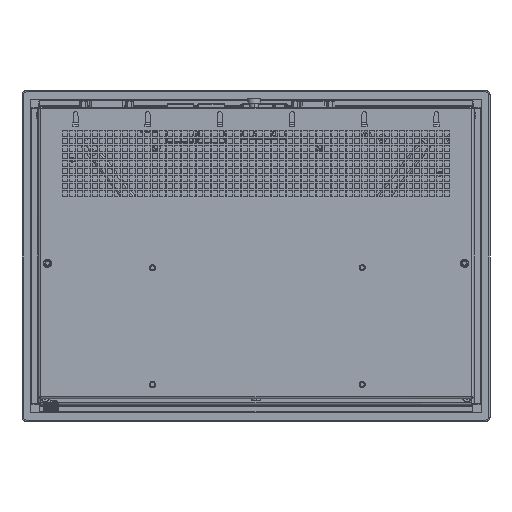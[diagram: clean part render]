
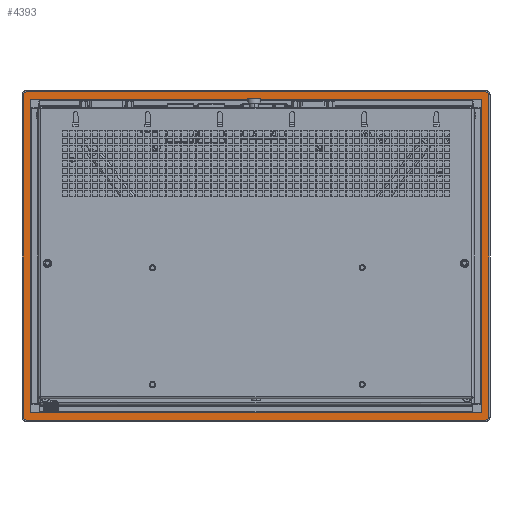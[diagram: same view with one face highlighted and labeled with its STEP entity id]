
A CAD part, front view. The second image highlights one B-rep face of the part: STEP entity #4393.
In plain terms, the highlighted planar face has unit normal (0, -1, 0).
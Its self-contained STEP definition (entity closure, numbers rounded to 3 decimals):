
#4140=CARTESIAN_POINT('',(-6.398,-0.059,
-4.291));
#4141=DIRECTION('',(0.,1.,0.));
#4142=DIRECTION('',(0.,0.,-1.));
#4143=AXIS2_PLACEMENT_3D('',#4140,#4141,#4142);
#4145=DIRECTION('',(0.,0.,1.));
#4146=VECTOR('',#4145,8.976);
#4147=CARTESIAN_POINT('',(-6.476,-0.059,
-4.291));
#4148=LINE('',#4147,#4146);
#4149=CARTESIAN_POINT('',(-6.398,-0.059,
4.685));
#4150=DIRECTION('',(0.,1.,0.));
#4151=DIRECTION('',(-1.,0.,0.));
#4152=AXIS2_PLACEMENT_3D('',#4149,#4150,#4151);
#4154=DIRECTION('',(1.,0.,0.));
#4155=VECTOR('',#4154,12.795);
#4156=CARTESIAN_POINT('',(-6.398,-0.059,
4.764));
#4157=LINE('',#4156,#4155);
#4158=CARTESIAN_POINT('',(6.398,-0.059,
4.685));
#4159=DIRECTION('',(0.,1.,0.));
#4160=DIRECTION('',(0.,0.,1.));
#4161=AXIS2_PLACEMENT_3D('',#4158,#4159,#4160);
#4163=DIRECTION('',(0.,0.,-1.));
#4164=VECTOR('',#4163,8.976);
#4165=CARTESIAN_POINT('',(6.476,-0.059,
4.685));
#4166=LINE('',#4165,#4164);
#4167=CARTESIAN_POINT('',(6.398,-0.059,
-4.291));
#4168=DIRECTION('',(0.,1.,0.));
#4169=DIRECTION('',(1.,0.,0.));
#4170=AXIS2_PLACEMENT_3D('',#4167,#4168,#4169);
#4172=DIRECTION('',(-1.,0.,0.));
#4173=VECTOR('',#4172,12.795);
#4174=CARTESIAN_POINT('',(6.398,-0.059,
-4.37));
#4175=LINE('',#4174,#4173);
#4176=DIRECTION('',(1.,0.,0.));
#4177=VECTOR('',#4176,12.48);
#4178=CARTESIAN_POINT('',(-6.24,-0.059,
-4.173));
#4179=LINE('',#4178,#4177);
#4180=CARTESIAN_POINT('',(6.24,-0.059,
-4.134));
#4181=DIRECTION('',(0.,-1.,0.));
#4182=DIRECTION('',(0.,0.,-1.));
#4183=AXIS2_PLACEMENT_3D('',#4180,#4181,#4182);
#4185=DIRECTION('',(0.,0.,1.));
#4186=VECTOR('',#4185,8.661);
#4187=CARTESIAN_POINT('',(6.28,-0.059,
-4.134));
#4188=LINE('',#4187,#4186);
#4189=CARTESIAN_POINT('',(6.24,-0.059,
4.528));
#4190=DIRECTION('',(0.,-1.,0.));
#4191=DIRECTION('',(1.,0.,0.));
#4192=AXIS2_PLACEMENT_3D('',#4189,#4190,#4191);
#4194=DIRECTION('',(-1.,0.,0.));
#4195=VECTOR('',#4194,12.48);
#4196=CARTESIAN_POINT('',(6.24,-0.059,
4.567));
#4197=LINE('',#4196,#4195);
#4198=CARTESIAN_POINT('',(-6.24,-0.059,
4.528));
#4199=DIRECTION('',(0.,-1.,0.));
#4200=DIRECTION('',(0.,0.,1.));
#4201=AXIS2_PLACEMENT_3D('',#4198,#4199,#4200);
#4203=DIRECTION('',(0.,0.,-1.));
#4204=VECTOR('',#4203,8.661);
#4205=CARTESIAN_POINT('',(-6.28,-0.059,
4.528));
#4206=LINE('',#4205,#4204);
#4207=CARTESIAN_POINT('',(-6.24,-0.059,
-4.134));
#4208=DIRECTION('',(0.,-1.,0.));
#4209=DIRECTION('',(-1.,0.,0.));
#4210=AXIS2_PLACEMENT_3D('',#4207,#4208,#4209);
#4296=CARTESIAN_POINT('',(-6.398,-0.059,
-4.37));
#4297=CARTESIAN_POINT('',(-6.476,-0.059,
-4.291));
#4298=VERTEX_POINT('',#4296);
#4299=VERTEX_POINT('',#4297);
#4300=CARTESIAN_POINT('',(-6.476,-0.059,
4.685));
#4301=VERTEX_POINT('',#4300);
#4302=CARTESIAN_POINT('',(-6.398,-0.059,
4.764));
#4303=VERTEX_POINT('',#4302);
#4304=CARTESIAN_POINT('',(6.398,-0.059,
4.764));
#4305=VERTEX_POINT('',#4304);
#4306=CARTESIAN_POINT('',(6.476,-0.059,
4.685));
#4307=VERTEX_POINT('',#4306);
#4308=CARTESIAN_POINT('',(6.476,-0.059,
-4.291));
#4309=VERTEX_POINT('',#4308);
#4310=CARTESIAN_POINT('',(6.398,-0.059,
-4.37));
#4311=VERTEX_POINT('',#4310);
#4312=CARTESIAN_POINT('',(-6.24,-0.059,
-4.173));
#4313=CARTESIAN_POINT('',(6.24,-0.059,
-4.173));
#4314=VERTEX_POINT('',#4312);
#4315=VERTEX_POINT('',#4313);
#4316=CARTESIAN_POINT('',(6.28,-0.059,
-4.134));
#4317=VERTEX_POINT('',#4316);
#4318=CARTESIAN_POINT('',(6.28,-0.059,
4.528));
#4319=VERTEX_POINT('',#4318);
#4320=CARTESIAN_POINT('',(6.24,-0.059,
4.567));
#4321=VERTEX_POINT('',#4320);
#4322=CARTESIAN_POINT('',(-6.24,-0.059,
4.567));
#4323=VERTEX_POINT('',#4322);
#4324=CARTESIAN_POINT('',(-6.28,-0.059,
4.528));
#4325=VERTEX_POINT('',#4324);
#4326=CARTESIAN_POINT('',(-6.28,-0.059,
-4.134));
#4327=VERTEX_POINT('',#4326);
#4352=CARTESIAN_POINT('',(0.,-0.059,0.197));
#4353=DIRECTION('',(0.,1.,0.));
#4354=DIRECTION('',(1.,0.,0.));
#4355=AXIS2_PLACEMENT_3D('',#4352,#4353,#4354);
#4356=PLANE('',#4355);
#4358=ORIENTED_EDGE('',*,*,#4357,.T.);
#4360=ORIENTED_EDGE('',*,*,#4359,.T.);
#4362=ORIENTED_EDGE('',*,*,#4361,.T.);
#4364=ORIENTED_EDGE('',*,*,#4363,.T.);
#4366=ORIENTED_EDGE('',*,*,#4365,.T.);
#4368=ORIENTED_EDGE('',*,*,#4367,.T.);
#4370=ORIENTED_EDGE('',*,*,#4369,.T.);
#4372=ORIENTED_EDGE('',*,*,#4371,.T.);
#4373=EDGE_LOOP('',(#4358,#4360,#4362,#4364,#4366,#4368,#4370,#4372));
#4374=FACE_OUTER_BOUND('',#4373,.F.);
#4376=ORIENTED_EDGE('',*,*,#4375,.T.);
#4378=ORIENTED_EDGE('',*,*,#4377,.T.);
#4380=ORIENTED_EDGE('',*,*,#4379,.T.);
#4382=ORIENTED_EDGE('',*,*,#4381,.T.);
#4384=ORIENTED_EDGE('',*,*,#4383,.T.);
#4386=ORIENTED_EDGE('',*,*,#4385,.T.);
#4388=ORIENTED_EDGE('',*,*,#4387,.T.);
#4390=ORIENTED_EDGE('',*,*,#4389,.T.);
#4391=EDGE_LOOP('',(#4376,#4378,#4380,#4382,#4384,#4386,#4388,#4390));
#4392=FACE_BOUND('',#4391,.F.);
#4144=CIRCLE('',#4143,0.079);
#4153=CIRCLE('',#4152,0.079);
#4162=CIRCLE('',#4161,0.079);
#4171=CIRCLE('',#4170,0.079);
#4184=CIRCLE('',#4183,0.039);
#4193=CIRCLE('',#4192,0.039);
#4202=CIRCLE('',#4201,0.039);
#4211=CIRCLE('',#4210,0.039);
#4357=EDGE_CURVE('',#4298,#4299,#4144,.T.);
#4359=EDGE_CURVE('',#4299,#4301,#4148,.T.);
#4361=EDGE_CURVE('',#4301,#4303,#4153,.T.);
#4363=EDGE_CURVE('',#4303,#4305,#4157,.T.);
#4365=EDGE_CURVE('',#4305,#4307,#4162,.T.);
#4367=EDGE_CURVE('',#4307,#4309,#4166,.T.);
#4369=EDGE_CURVE('',#4309,#4311,#4171,.T.);
#4371=EDGE_CURVE('',#4311,#4298,#4175,.T.);
#4375=EDGE_CURVE('',#4314,#4315,#4179,.T.);
#4377=EDGE_CURVE('',#4315,#4317,#4184,.T.);
#4379=EDGE_CURVE('',#4317,#4319,#4188,.T.);
#4381=EDGE_CURVE('',#4319,#4321,#4193,.T.);
#4383=EDGE_CURVE('',#4321,#4323,#4197,.T.);
#4385=EDGE_CURVE('',#4323,#4325,#4202,.T.);
#4387=EDGE_CURVE('',#4325,#4327,#4206,.T.);
#4389=EDGE_CURVE('',#4327,#4314,#4211,.T.);
#4393=ADVANCED_FACE('',(#4374,#4392),#4356,.F.);
